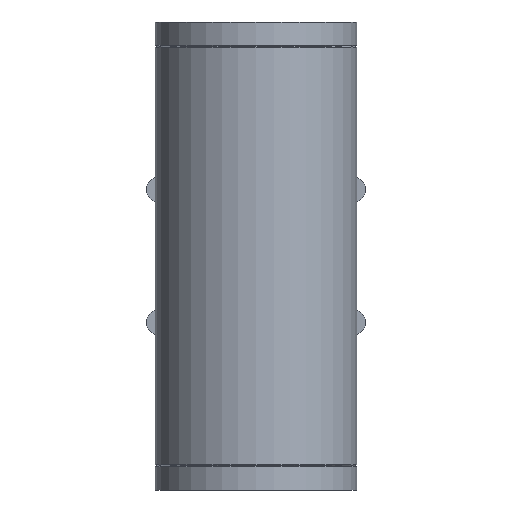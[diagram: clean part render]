
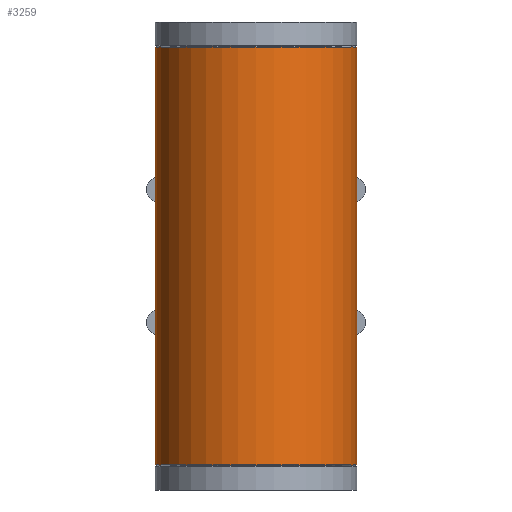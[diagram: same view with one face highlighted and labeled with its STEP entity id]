
A CAD part, front view. The second image highlights one B-rep face of the part: STEP entity #3259.
In plain terms, the highlighted cylindrical face has radius 125 mm (diameter 250 mm), a full revolution.
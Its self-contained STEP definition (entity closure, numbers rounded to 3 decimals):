
#39=FACE_BOUND($,#477,.T.);
#40=FACE_BOUND($,#478,.T.);
#105=B_SPLINE_CURVE_WITH_KNOTS($,3,(#4948,#4949,#4950,#4951,#4952,#4953,
#4954,#4955,#4956,#4957,#4958,#4959,#4960,#4961,#4962,#4963,#4964,#4965,
#4966,#4967,#4968,#4969,#4970,#4971,#4972,#4973,#4974,#4975,#4976,#4977,
#4978,#4979,#4980,#4981,#4982,#4983,#4984,#4985),.UNSPECIFIED.,.F.,.F.,
(4,2,2,2,2,2,2,2,2,2,2,2,2,2,2,2,2,2,4),(0.,1.012,2.024,
4.047,6.071,8.095,10.059,12.024,
13.989,15.953,17.918,19.882,21.847,
23.812,25.835,27.859,29.883,30.895,
31.906),.UNSPECIFIED.);
#106=B_SPLINE_CURVE_WITH_KNOTS($,3,(#4994,#4995,#4996,#4997,#4998,#4999,
#5000,#5001,#5002,#5003,#5004,#5005,#5006,#5007,#5008,#5009,#5010,#5011,
#5012,#5013,#5014,#5015,#5016,#5017,#5018,#5019,#5020,#5021,#5022,#5023,
#5024,#5025,#5026,#5027,#5028,#5029,#5030,#5031),.UNSPECIFIED.,.F.,.F.,
(4,2,2,2,2,2,2,2,2,2,2,2,2,2,2,2,2,2,4),(0.,1.012,2.024,
4.047,6.071,8.095,10.059,12.024,
13.989,15.953,17.918,19.882,21.847,
23.812,25.835,27.859,29.883,30.895,
31.906),.UNSPECIFIED.);
#124=CYLINDRICAL_SURFACE($,#3461,125.);
#303=FACE_OUTER_BOUND($,#476,.T.);
#476=EDGE_LOOP($,(#2301));
#477=EDGE_LOOP($,(#2302));
#478=EDGE_LOOP($,(#2303,#2304,#2305,#2306));
#705=CIRCLE($,#3452,125.);
#710=CIRCLE($,#3462,125.);
#906=LINE($,#4991,#1185);
#907=LINE($,#4993,#1186);
#1185=VECTOR($,#3884,100.);
#1186=VECTOR($,#3885,100.);
#1462=VERTEX_POINT($,#4927);
#1469=VERTEX_POINT($,#4945);
#1470=VERTEX_POINT($,#4947);
#1471=VERTEX_POINT($,#4988);
#1472=VERTEX_POINT($,#4990);
#1473=VERTEX_POINT($,#4992);
#1792=EDGE_CURVE($,#1462,#1462,#705,.T.);
#1800=EDGE_CURVE($,#1470,#1469,#105,.T.);
#1802=EDGE_CURVE($,#1471,#1471,#710,.T.);
#1803=EDGE_CURVE($,#1472,#1470,#906,.T.);
#1804=EDGE_CURVE($,#1469,#1473,#907,.T.);
#1805=EDGE_CURVE($,#1473,#1472,#106,.T.);
#2301=ORIENTED_EDGE($,*,*,#1792,.T.);
#2302=ORIENTED_EDGE($,*,*,#1802,.T.);
#2303=ORIENTED_EDGE($,*,*,#1803,.T.);
#2304=ORIENTED_EDGE($,*,*,#1800,.T.);
#2305=ORIENTED_EDGE($,*,*,#1804,.T.);
#2306=ORIENTED_EDGE($,*,*,#1805,.T.);
#3259=ADVANCED_FACE($,(#303,#39,#40),#124,.T.);
#3452=AXIS2_PLACEMENT_3D($,#4928,#3858,#3859);
#3461=AXIS2_PLACEMENT_3D($,#4987,#3880,#3881);
#3462=AXIS2_PLACEMENT_3D($,#4989,#3882,#3883);
#3858=DIRECTION('center_axis',(0.,0.,1.));
#3859=DIRECTION('ref_axis',(-1.,0.,0.));
#3880=DIRECTION('center_axis',(0.,0.,1.));
#3881=DIRECTION('ref_axis',(-1.,0.,0.));
#3882=DIRECTION('center_axis',(0.,0.,-1.));
#3883=DIRECTION('ref_axis',(-1.,0.,0.));
#3884=DIRECTION($,(0.,0.,-1.));
#3885=DIRECTION($,(0.,0.,1.));
#4927=CARTESIAN_POINT('',(125.,0.,-258.557));
#4928=CARTESIAN_POINT('Origin',(0.,0.,-258.557));
#4945=CARTESIAN_POINT('',(99.,76.315,-50.));
#4947=CARTESIAN_POINT('',(-99.,76.315,-50.));
#4948=CARTESIAN_POINT('Ctrl Pts',(-99.,76.315,-50.));
#4949=CARTESIAN_POINT('Ctrl Pts',(-99.,76.315,-53.373));
#4950=CARTESIAN_POINT('Ctrl Pts',(-98.827,76.541,-56.736));
#4951=CARTESIAN_POINT('Ctrl Pts',(-98.146,77.412,-63.4));
#4952=CARTESIAN_POINT('Ctrl Pts',(-97.638,78.058,-66.7));
#4953=CARTESIAN_POINT('Ctrl Pts',(-95.632,80.524,-76.45));
#4954=CARTESIAN_POINT('Ctrl Pts',(-93.652,82.874,-82.749));
#4955=CARTESIAN_POINT('Ctrl Pts',(-88.569,88.285,-94.707));
#4956=CARTESIAN_POINT('Ctrl Pts',(-85.461,91.343,-100.375));
#4957=CARTESIAN_POINT('Ctrl Pts',(-78.332,97.527,-110.872));
#4958=CARTESIAN_POINT('Ctrl Pts',(-74.307,100.65,-115.7));
#4959=CARTESIAN_POINT('Ctrl Pts',(-65.826,106.383,-124.181));
#4960=CARTESIAN_POINT('Ctrl Pts',(-61.073,109.222,-128.176));
#4961=CARTESIAN_POINT('Ctrl Pts',(-50.589,114.455,-135.335));
#4962=CARTESIAN_POINT('Ctrl Pts',(-44.859,116.848,-138.5));
#4963=CARTESIAN_POINT('Ctrl Pts',(-32.728,120.808,-143.666));
#4964=CARTESIAN_POINT('Ctrl Pts',(-26.314,122.379,-145.672));
#4965=CARTESIAN_POINT('Ctrl Pts',(-13.224,124.475,-148.34));
#4966=CARTESIAN_POINT('Ctrl Pts',(-6.549,125.,-149.));
#4967=CARTESIAN_POINT('Ctrl Pts',(6.549,125.,-149.));
#4968=CARTESIAN_POINT('Ctrl Pts',(13.224,124.475,-148.34));
#4969=CARTESIAN_POINT('Ctrl Pts',(26.314,122.379,-145.672));
#4970=CARTESIAN_POINT('Ctrl Pts',(32.728,120.808,-143.666));
#4971=CARTESIAN_POINT('Ctrl Pts',(44.859,116.848,-138.5));
#4972=CARTESIAN_POINT('Ctrl Pts',(50.589,114.455,-135.335));
#4973=CARTESIAN_POINT('Ctrl Pts',(61.073,109.222,-128.176));
#4974=CARTESIAN_POINT('Ctrl Pts',(65.826,106.383,-124.181));
#4975=CARTESIAN_POINT('Ctrl Pts',(74.307,100.65,-115.7));
#4976=CARTESIAN_POINT('Ctrl Pts',(78.332,97.527,-110.872));
#4977=CARTESIAN_POINT('Ctrl Pts',(85.461,91.343,-100.375));
#4978=CARTESIAN_POINT('Ctrl Pts',(88.569,88.285,-94.707));
#4979=CARTESIAN_POINT('Ctrl Pts',(93.652,82.874,-82.749));
#4980=CARTESIAN_POINT('Ctrl Pts',(95.632,80.524,-76.45));
#4981=CARTESIAN_POINT('Ctrl Pts',(97.638,78.058,-66.7));
#4982=CARTESIAN_POINT('Ctrl Pts',(98.146,77.412,-63.4));
#4983=CARTESIAN_POINT('Ctrl Pts',(98.827,76.541,-56.736));
#4984=CARTESIAN_POINT('Ctrl Pts',(99.,76.315,-53.373));
#4985=CARTESIAN_POINT('Ctrl Pts',(99.,76.315,-50.));
#4987=CARTESIAN_POINT('Origin',(0.,0.,0.));
#4988=CARTESIAN_POINT('',(125.,0.,258.557));
#4989=CARTESIAN_POINT('Origin',(0.,0.,258.557));
#4990=CARTESIAN_POINT('',(-99.,76.315,50.));
#4991=CARTESIAN_POINT($,(-99.,76.315,0.));
#4992=CARTESIAN_POINT('',(99.,76.315,50.));
#4993=CARTESIAN_POINT($,(99.,76.315,0.));
#4994=CARTESIAN_POINT('Ctrl Pts',(99.,76.315,50.));
#4995=CARTESIAN_POINT('Ctrl Pts',(99.,76.315,53.373));
#4996=CARTESIAN_POINT('Ctrl Pts',(98.827,76.541,56.736));
#4997=CARTESIAN_POINT('Ctrl Pts',(98.146,77.412,63.4));
#4998=CARTESIAN_POINT('Ctrl Pts',(97.638,78.058,66.7));
#4999=CARTESIAN_POINT('Ctrl Pts',(95.632,80.524,76.45));
#5000=CARTESIAN_POINT('Ctrl Pts',(93.652,82.874,82.749));
#5001=CARTESIAN_POINT('Ctrl Pts',(88.569,88.285,94.707));
#5002=CARTESIAN_POINT('Ctrl Pts',(85.461,91.343,100.375));
#5003=CARTESIAN_POINT('Ctrl Pts',(78.332,97.527,110.872));
#5004=CARTESIAN_POINT('Ctrl Pts',(74.307,100.65,115.7));
#5005=CARTESIAN_POINT('Ctrl Pts',(65.826,106.383,124.181));
#5006=CARTESIAN_POINT('Ctrl Pts',(61.073,109.222,128.176));
#5007=CARTESIAN_POINT('Ctrl Pts',(50.589,114.455,135.335));
#5008=CARTESIAN_POINT('Ctrl Pts',(44.859,116.848,138.5));
#5009=CARTESIAN_POINT('Ctrl Pts',(32.728,120.808,143.666));
#5010=CARTESIAN_POINT('Ctrl Pts',(26.314,122.379,145.672));
#5011=CARTESIAN_POINT('Ctrl Pts',(13.224,124.475,148.34));
#5012=CARTESIAN_POINT('Ctrl Pts',(6.549,125.,149.));
#5013=CARTESIAN_POINT('Ctrl Pts',(-6.549,125.,149.));
#5014=CARTESIAN_POINT('Ctrl Pts',(-13.224,124.475,148.34));
#5015=CARTESIAN_POINT('Ctrl Pts',(-26.314,122.379,145.672));
#5016=CARTESIAN_POINT('Ctrl Pts',(-32.728,120.808,143.666));
#5017=CARTESIAN_POINT('Ctrl Pts',(-44.859,116.848,138.5));
#5018=CARTESIAN_POINT('Ctrl Pts',(-50.589,114.455,135.335));
#5019=CARTESIAN_POINT('Ctrl Pts',(-61.073,109.222,128.176));
#5020=CARTESIAN_POINT('Ctrl Pts',(-65.826,106.383,124.181));
#5021=CARTESIAN_POINT('Ctrl Pts',(-74.307,100.65,115.7));
#5022=CARTESIAN_POINT('Ctrl Pts',(-78.332,97.527,110.872));
#5023=CARTESIAN_POINT('Ctrl Pts',(-85.461,91.343,100.375));
#5024=CARTESIAN_POINT('Ctrl Pts',(-88.569,88.285,94.707));
#5025=CARTESIAN_POINT('Ctrl Pts',(-93.652,82.874,82.749));
#5026=CARTESIAN_POINT('Ctrl Pts',(-95.632,80.524,76.45));
#5027=CARTESIAN_POINT('Ctrl Pts',(-97.638,78.058,66.7));
#5028=CARTESIAN_POINT('Ctrl Pts',(-98.146,77.412,63.4));
#5029=CARTESIAN_POINT('Ctrl Pts',(-98.827,76.541,56.736));
#5030=CARTESIAN_POINT('Ctrl Pts',(-99.,76.315,53.373));
#5031=CARTESIAN_POINT('Ctrl Pts',(-99.,76.315,50.));
